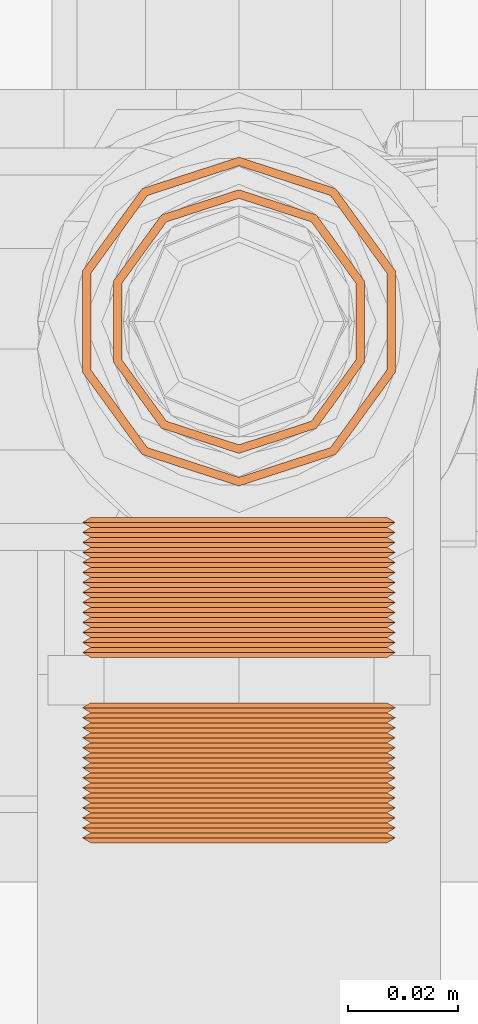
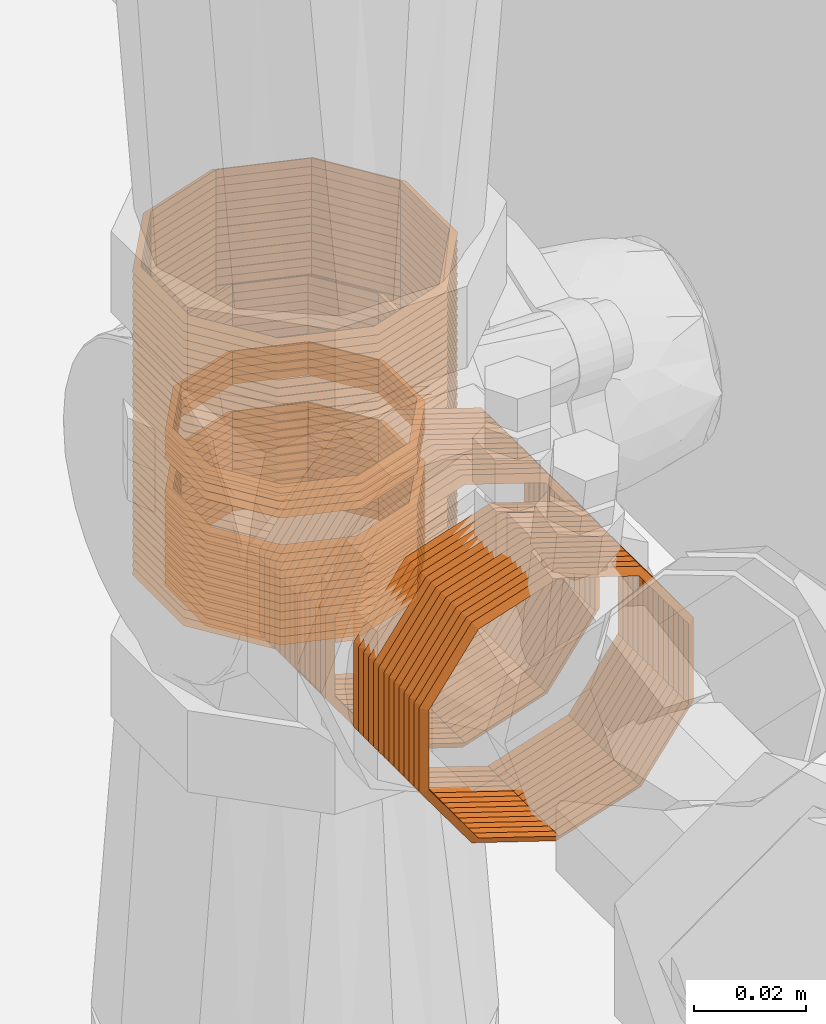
# One storey, part 42 of 43: 108 proxies.
"""IFC2X3 building model written with IfcOpenShell, lengths in millimetres."""

from ifc_helpers import new_model, entity, si_unit, converted_unit, derived_unit, direction, frame, origin, place, context, subcontext, project, spatial, faceted_brep, source, transform, mapped, material, type_object, type_shapes, element, save


model = new_model("IFC2X3")

# Units and contexts
model_context = context("Model", 3, precision=0.01, world=origin(), true_north=direction((6.123031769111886e-17, 1.0)))
body_context = subcontext(model_context, "Body", "Model", "MODEL_VIEW")
ifc_project = project(units=[si_unit("LENGTHUNIT", "METRE", prefix="MILLI"), si_unit("AREAUNIT", "SQUARE_METRE"), si_unit("VOLUMEUNIT", "CUBIC_METRE"), converted_unit("PLANEANGLEUNIT", "DEGREE", entity("IfcRatioMeasure", 0.017453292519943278), si_unit("PLANEANGLEUNIT", "RADIAN"), dimensions=[0, 0, 0, 0, 0, 0, 0]), si_unit("MASSUNIT", "GRAM", prefix="KILO"), derived_unit("MASSDENSITYUNIT", [(si_unit("MASSUNIT", "GRAM", prefix="KILO"), 1), (si_unit("LENGTHUNIT", "METRE"), -3)]), derived_unit("MOMENTOFINERTIAUNIT", [(si_unit("LENGTHUNIT", "METRE"), 4)]), si_unit("TIMEUNIT", "SECOND"), si_unit("FREQUENCYUNIT", "HERTZ"), si_unit("THERMODYNAMICTEMPERATUREUNIT", "DEGREE_CELSIUS"), derived_unit("THERMALTRANSMITTANCEUNIT", [(si_unit("MASSUNIT", "GRAM", prefix="KILO"), 1), (si_unit("THERMODYNAMICTEMPERATUREUNIT", "KELVIN"), -1), (si_unit("TIMEUNIT", "SECOND"), -3)]), derived_unit("VOLUMETRICFLOWRATEUNIT", [(si_unit("LENGTHUNIT", "METRE"), 3), (si_unit("TIMEUNIT", "SECOND"), -1)]), derived_unit("MASSFLOWRATEUNIT", [(si_unit("MASSUNIT", "GRAM", prefix="KILO"), 1), (si_unit("TIMEUNIT", "SECOND"), -1)]), derived_unit("ROTATIONALFREQUENCYUNIT", [(si_unit("TIMEUNIT", "SECOND"), -1)]), si_unit("ELECTRICCURRENTUNIT", "AMPERE"), si_unit("ELECTRICVOLTAGEUNIT", "VOLT"), si_unit("POWERUNIT", "WATT"), si_unit("FORCEUNIT", "NEWTON", prefix="KILO"), si_unit("ILLUMINANCEUNIT", "LUX"), si_unit("LUMINOUSFLUXUNIT", "LUMEN"), si_unit("LUMINOUSINTENSITYUNIT", "CANDELA"), derived_unit("USERDEFINED", [(si_unit("MASSUNIT", "GRAM", prefix="KILO"), -1), (si_unit("LENGTHUNIT", "METRE"), -2), (si_unit("TIMEUNIT", "SECOND"), 3), (si_unit("LUMINOUSFLUXUNIT", "LUMEN"), 1)]), derived_unit("SOUNDPOWERUNIT", [(si_unit("MASSUNIT", "GRAM", prefix="KILO"), 1), (si_unit("LENGTHUNIT", "METRE"), 2), (si_unit("TIMEUNIT", "SECOND"), -3)]), derived_unit("SOUNDPRESSUREUNIT", [(si_unit("MASSUNIT", "GRAM", prefix="KILO"), 1), (si_unit("LENGTHUNIT", "METRE"), -1), (si_unit("TIMEUNIT", "SECOND"), -2)]), derived_unit("LINEARVELOCITYUNIT", [(si_unit("LENGTHUNIT", "METRE"), 1), (si_unit("TIMEUNIT", "SECOND"), -1)]), si_unit("PRESSUREUNIT", "PASCAL"), derived_unit("USERDEFINED", [(si_unit("LENGTHUNIT", "METRE"), -2), (si_unit("MASSUNIT", "GRAM", prefix="KILO"), 1), (si_unit("TIMEUNIT", "SECOND"), -2)]), derived_unit("LINEARFORCEUNIT", [(si_unit("MASSUNIT", "GRAM", prefix="KILO"), 1), (si_unit("LENGTHUNIT", "METRE"), 1), (si_unit("TIMEUNIT", "SECOND"), -2), (si_unit("LENGTHUNIT", "METRE"), -1)]), derived_unit("PLANARFORCEUNIT", [(si_unit("MASSUNIT", "GRAM", prefix="KILO"), 1), (si_unit("LENGTHUNIT", "METRE"), 1), (si_unit("TIMEUNIT", "SECOND"), -2), (si_unit("LENGTHUNIT", "METRE"), -2)])], contexts=[model_context])

# Site, building, storey
site_placement = place(None, origin())
site = spatial("IfcSite", under=ifc_project, at=site_placement, Name="Default", CompositionType="ELEMENT")
building_placement = place(site_placement, origin())
building = spatial("IfcBuilding", under=site, at=building_placement, CompositionType="ELEMENT")
storey_placement = place(building_placement, frame((0.0, 0.0, 270.0)))
storey = spatial("IfcBuildingStorey", under=building, at=storey_placement, Name="Niveau 0", CompositionType="ELEMENT", Elevation=270.0)

# Proxies
ifc_material = material(Name="Copper Conex")
building_element_proxy_type_1 = type_object("IfcBuildingElementProxyType", Name="Male:Male", PredefinedType="NOTDEFINED", material=ifc_material)
shared_shape_1 = source(origin(), body_context, "Body", "Brep", [
    faceted_brep([(0.907000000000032, 8.933272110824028, 19.427933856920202), (0.907000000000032, 13.125556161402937, 18.065778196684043), (0.0, 14.048949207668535, 19.336719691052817), (0.0, 7.024474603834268, 21.619109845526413), (0.0, 0.0, 23.901500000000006), (0.907000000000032, 0.0, 22.33052991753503), (0.907000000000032, 4.740988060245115, 20.790089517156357), (0.907000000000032, 6.562778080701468, 20.198154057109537), (0.907000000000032, 6.562778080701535, -20.198154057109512), (0.907000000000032, 0.0, -22.33052991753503), (0.0, 0.0, -23.901500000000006), (0.0, 5.07452024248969, -22.252688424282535), (0.0, 9.561734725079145, -20.794704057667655), (0.0, 14.048949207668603, -19.33671969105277), (0.907000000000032, 13.125556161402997, -18.065778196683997), (0.907000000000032, 21.23759599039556, 6.900513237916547), (0.0, 22.731677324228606, 7.385969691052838), (0.0, 18.39031326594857, 13.361344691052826), (0.907000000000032, 17.181576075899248, 12.483145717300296), (0.0, 22.73167732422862, 0.0), (0.907000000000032, 21.237595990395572, 0.0), (0.907000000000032, 21.237595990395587, -6.900513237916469), (0.0, 22.731677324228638, -7.385969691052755), (0.0, 18.39031326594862, -13.361344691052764), (0.907000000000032, 17.181576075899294, -12.483145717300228), (0.907000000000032, -8.933272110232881, -19.427933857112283), (0.907000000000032, -13.125556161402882, -18.065778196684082), (0.0, -14.048949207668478, -19.33671969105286), (0.0, -7.0244746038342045, -21.619109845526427), (0.907000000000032, -4.740988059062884, -20.79008951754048), (0.907000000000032, -6.5627780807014, -20.19815405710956), (0.907000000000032, -6.562778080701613, 20.198154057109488), (0.0, -5.0745202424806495, 22.252688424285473), (0.0, -9.561734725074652, 20.7947040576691), (0.0, -14.048949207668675, 19.33671969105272), (0.907000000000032, -13.125556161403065, 18.06577819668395), (0.907000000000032, -21.23759599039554, -6.900513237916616), (0.0, -22.731677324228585, -7.385969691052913), (0.0, -18.39031326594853, -13.361344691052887), (0.907000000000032, -17.18157607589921, -12.48314571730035), (0.0, -22.73167732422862, 0.0), (0.907000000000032, -21.237595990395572, 0.0), (0.907000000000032, -21.237595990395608, 6.9005132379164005), (0.0, -22.73167732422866, 7.385969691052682), (0.0, -18.39031326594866, 13.36134469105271), (0.907000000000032, -17.181576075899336, 12.483145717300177), (-0.907000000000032, 0.0, -22.33052991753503), (-0.907000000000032, 4.82365047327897, -20.76323087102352), (-0.907000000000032, 6.562778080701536, -20.198154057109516), (-0.907000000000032, 8.97460331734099, -19.41450453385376), (-0.907000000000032, 13.125556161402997, -18.065778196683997), (-0.907000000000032, 8.933272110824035, 19.42793385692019), (-0.907000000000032, 6.562778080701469, 20.198154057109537), (-0.907000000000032, 4.740988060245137, 20.790089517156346), (-0.907000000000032, 0.0, 22.33052991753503), (-0.907000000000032, 13.125556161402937, 18.065778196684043), (-0.907000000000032, 21.23759599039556, 6.900513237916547), (-0.907000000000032, 17.181576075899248, 12.483145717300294), (-0.907000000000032, 21.237595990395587, -6.900513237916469), (-0.907000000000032, 21.237595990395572, 0.0), (-0.907000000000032, 17.181576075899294, -12.483145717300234), (-0.907000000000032, -4.823650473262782, 20.763230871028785), (-0.907000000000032, -6.562778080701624, 20.198154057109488), (-0.907000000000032, -8.974603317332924, 19.414504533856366), (-0.907000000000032, -13.125556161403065, 18.06577819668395), (-0.907000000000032, -8.933272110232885, -19.42793385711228), (-0.907000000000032, -6.5627780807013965, -20.198154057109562), (-0.907000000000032, -4.740988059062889, -20.79008951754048), (-0.907000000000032, -13.125556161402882, -18.065778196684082), (-0.907000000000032, -21.23759599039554, -6.900513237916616), (-0.907000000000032, -17.181576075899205, -12.483145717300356), (-0.907000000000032, -21.237595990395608, 6.9005132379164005), (-0.907000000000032, -21.237595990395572, 0.0), (-0.907000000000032, -17.181576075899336, 12.483145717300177)], [[[0, 1, 2, 3, 4, 5, 6, 7]], [[8, 9, 10, 11, 12, 13, 14]], [[15, 16, 17, 2, 1, 18]], [[19, 16, 15, 20, 21, 22]], [[14, 13, 23, 22, 21, 24]], [[25, 26, 27, 28, 10, 9, 29, 30]], [[31, 5, 4, 32, 33, 34, 35]], [[36, 37, 38, 27, 26, 39]], [[40, 37, 36, 41, 42, 43]], [[35, 34, 44, 43, 42, 45]], [[12, 11, 10, 46, 47, 48, 49, 50, 13]], [[51, 52, 53, 54, 4, 3, 2, 55]], [[2, 17, 16, 56, 57, 55]], [[58, 59, 56, 16, 19, 22]], [[22, 23, 13, 50, 60, 58]], [[33, 32, 4, 54, 61, 62, 63, 64, 34]], [[65, 66, 67, 46, 10, 28, 27, 68]], [[27, 38, 37, 69, 70, 68]], [[71, 72, 69, 37, 40, 43]], [[43, 44, 34, 64, 73, 71]], [[18, 1, 55, 57, 56, 15]], [[7, 6, 5, 54, 53, 52, 51, 55, 1, 0]], [[47, 46, 9, 8, 14, 50, 49, 48]], [[59, 58, 21, 20, 15, 56]], [[14, 24, 21, 58, 60, 50]], [[26, 25, 30, 29, 9, 46, 67, 66, 65, 68]], [[69, 36, 39, 26, 68, 70]], [[61, 54, 5, 31, 35, 64, 63, 62]], [[72, 71, 42, 41, 36, 69]], [[35, 45, 42, 71, 73, 64]]]),
])
type_shapes(building_element_proxy_type_1, [shared_shape_1])
for number, where, z_axis, x_axis, name in (
    (1, (-1682.0, -9305.0, 1842.6592340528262), (0.0, 1.0, 0.0), (0.0, 0.0, 1.0), "Male:Male"),
    (2, (-1682.0, -9305.0, 1826.3332340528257), (0.0, 1.0, 0.0), (0.0, 0.0, 1.0), "Male:Male"),
    (3, (-1682.0, -9305.0, 1824.5192340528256), (0.0, 1.0, 0.0), (0.0, 0.0, 1.0), "Male:Male"),
    (4, (-1682.0, -9305.0, 1822.7052340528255), (0.0, 1.0, 0.0), (0.0, 0.0, 1.0), "Male:Male"),
    (5, (-1682.0, -9305.0, 1833.5892340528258), (0.0, 1.0, 0.0), (0.0, 0.0, 1.0), "Male:Male"),
    (6, (-1682.0, -9305.0, 1831.7752340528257), (0.0, 1.0, 0.0), (0.0, 0.0, 1.0), "Male:Male"),
    (7, (-1682.0, -9305.0, 1829.9612340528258), (0.0, 1.0, 0.0), (0.0, 0.0, 1.0), "Male:Male"),
    (8, (-1682.0, -9305.0, 1828.1472340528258), (0.0, 1.0, 0.0), (0.0, 0.0, 1.0), "Male:Male"),
    (9, (-1682.0, -9305.0, 1850.4372340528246), (0.0, 1.0, 0.0), (0.0, 0.0, -1.0), "Male:Male"),
    (10, (-1682.0, -9305.0, 1866.763234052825), (0.0, 1.0, 0.0), (0.0, 0.0, -1.0), "Male:Male"),
    (11, (-1682.0, -9305.0, 1868.5772340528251), (0.0, 1.0, 0.0), (0.0, 0.0, -1.0), "Male:Male"),
    (12, (-1682.0, -9305.0, 1870.3912340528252), (0.0, 1.0, 0.0), (0.0, 0.0, -1.0), "Male:Male"),
    (13, (-1682.0, -9305.0, 1859.507234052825), (0.0, 1.0, 0.0), (0.0, 0.0, -1.0), "Male:Male"),
    (14, (-1682.0, -9305.0, 1861.3212340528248), (0.0, 1.0, 0.0), (0.0, 0.0, -1.0), "Male:Male"),
    (15, (-1682.0, -9305.0, 1863.135234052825), (0.0, 1.0, 0.0), (0.0, 0.0, -1.0), "Male:Male"),
    (16, (-1682.0, -9305.0, 1864.949234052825), (0.0, 1.0, 0.0), (0.0, 0.0, -1.0), "Male:Male"),
    (17, (-1682.0, -9305.0, 1835.4032340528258), (0.0, 1.0, 0.0), (0.0, 0.0, 1.0), "Male:Male"),
    (18, (-1682.0, -9305.0, 1857.693234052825), (0.0, 1.0, 0.0), (0.0, 0.0, -1.0), "Male:Male"),
    (19, (-1682.0, -9305.0, 1840.845234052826), (0.0, 1.0, 0.0), (0.0, 0.0, 1.0), "Male:Male"),
    (20, (-1682.0, -9305.0, 1839.031234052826), (0.0, 1.0, 0.0), (0.0, 0.0, 1.0), "Male:Male"),
    (21, (-1682.0, -9305.0, 1837.217234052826), (0.0, 1.0, 0.0), (0.0, 0.0, 1.0), "Male:Male"),
    (22, (-1682.0, -9305.0, 1852.2512340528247), (0.0, 1.0, 0.0), (0.0, 0.0, -1.0), "Male:Male"),
    (23, (-1682.0, -9305.0, 1854.0652340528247), (0.0, 1.0, 0.0), (0.0, 0.0, -1.0), "Male:Male"),
    (24, (-1682.0, -9305.0, 1855.8792340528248), (0.0, 1.0, 0.0), (0.0, 0.0, -1.0), "Male:Male"),
):
    element("IfcBuildingElementProxy", number, at=place(storey_placement, frame(where, z_axis=z_axis, x_axis=x_axis)), inside=storey, type_object=building_element_proxy_type_1, material=ifc_material, Name=name, ObjectType="Male:Male", context=body_context, shape_type="MappedRepresentation", body=[
        mapped(shared_shape_1, transform((0.0, 0.0, 0.0), scale=1.0)),
    ])
building_element_proxy_type_2 = type_object("IfcBuildingElementProxyType", Name="Male:Male", PredefinedType="NOTDEFINED", material=ifc_material)
shared_shape_2 = source(origin(), body_context, "Body", "Brep", [
    faceted_brep([(0.907000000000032, 16.596721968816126, 22.84342805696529), (0.0, 17.52011501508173, 24.114369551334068), (0.0, 8.760057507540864, 26.96068477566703), (0.0, 0.0, 29.807), (0.907000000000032, 0.0, 28.236029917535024), (0.907000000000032, 5.350198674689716, 26.497644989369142), (0.907000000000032, 8.298360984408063, 25.539728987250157), (0.907000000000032, 10.700397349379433, 24.759260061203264), (0.907000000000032, 26.85406024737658, 8.725413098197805), (0.0, 28.348141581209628, 9.210869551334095), (0.0, 22.93412829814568, 16.662619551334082), (0.907000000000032, 21.72539110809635, 15.784420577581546), (0.0, 5.647868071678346, -27.971896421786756), (0.0, 11.295736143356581, -26.13679284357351), (0.0, 17.52011501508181, -24.114369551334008), (0.907000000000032, 16.596721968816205, -22.843428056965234), (0.907000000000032, 8.298360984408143, -25.539728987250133), (0.907000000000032, 0.0, -28.236029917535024), (0.0, 0.0, -29.807), (0.0, 28.348141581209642, 0.0), (0.907000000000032, 26.854060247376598, 0.0), (0.907000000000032, 26.854060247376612, -8.725413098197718), (0.0, 28.348141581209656, -9.210869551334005), (0.0, 22.934128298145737, -16.662619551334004), (0.907000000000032, 21.72539110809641, -15.784420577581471), (0.907000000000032, -16.59672196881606, -22.84342805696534), (0.0, -17.520115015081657, -24.114369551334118), (0.0, -8.76005750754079, -26.960684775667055), (0.907000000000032, -5.3501986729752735, -26.497644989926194), (0.907000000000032, -8.298360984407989, -25.539728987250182), (0.907000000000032, -10.700397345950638, -24.75926006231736), (0.907000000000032, -26.854060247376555, -8.725413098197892), (0.0, -28.3481415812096, -9.21086955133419), (0.0, -22.934128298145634, -16.662619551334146), (0.907000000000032, -21.725391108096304, -15.784420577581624), (0.0, -5.647868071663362, 27.971896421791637), (0.0, -11.295736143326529, 26.136792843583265), (0.0, -17.5201150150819, 24.114369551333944), (0.907000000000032, -16.59672196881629, 22.843428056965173), (0.907000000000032, -8.298360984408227, 25.5397289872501), (0.0, -28.348141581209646, 0.0), (0.907000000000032, -26.854060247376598, 0.0), (0.907000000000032, -26.85406024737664, 8.725413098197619), (0.0, -28.348141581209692, 9.210869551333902), (0.0, -22.934128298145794, 16.662619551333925), (0.907000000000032, -21.72539110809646, 15.784420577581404), (-0.907000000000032, 16.596721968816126, 22.84342805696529), (-0.907000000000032, 10.700397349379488, 24.75926006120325), (-0.907000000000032, 8.298360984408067, 25.539728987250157), (-0.907000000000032, 5.350198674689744, 26.497644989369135), (-0.907000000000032, 0.0, 28.236029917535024), (-0.907000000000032, 0.0, -28.236029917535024), (-0.907000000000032, 5.424105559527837, -26.47363118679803), (-0.907000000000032, 8.29836098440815, -25.539728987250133), (-0.907000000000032, 10.848211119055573, -24.711232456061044), (-0.907000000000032, 16.596721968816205, -22.843428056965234), (-0.907000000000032, 26.85406024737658, 8.725413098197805), (-0.907000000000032, 21.725391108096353, 15.784420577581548), (-0.907000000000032, 26.854060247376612, -8.725413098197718), (-0.907000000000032, 26.854060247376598, 0.0), (-0.907000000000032, 21.72539110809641, -15.784420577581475), (-0.907000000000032, -16.59672196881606, -22.84342805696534), (-0.907000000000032, -10.700397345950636, -24.759260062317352), (-0.907000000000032, -8.298360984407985, -25.539728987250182), (-0.907000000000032, -5.350198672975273, -26.49764498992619), (-0.907000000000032, -5.424105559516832, 26.47363118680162), (-0.907000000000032, -8.298360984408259, 25.539728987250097), (-0.907000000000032, -10.848211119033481, 24.71123245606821), (-0.907000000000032, -16.59672196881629, 22.843428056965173), (-0.907000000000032, -26.854060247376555, -8.725413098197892), (-0.907000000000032, -21.725391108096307, -15.784420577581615), (-0.907000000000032, -26.85406024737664, 8.725413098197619), (-0.907000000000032, -26.854060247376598, 0.0), (-0.907000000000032, -21.725391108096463, 15.784420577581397)], [[[0, 1, 2, 3, 4, 5, 6, 7]], [[8, 9, 10, 1, 0, 11]], [[12, 13, 14, 15, 16, 17, 18]], [[19, 9, 8, 20, 21, 22]], [[15, 14, 23, 22, 21, 24]], [[25, 26, 27, 18, 17, 28, 29, 30]], [[31, 32, 33, 26, 25, 34]], [[35, 36, 37, 38, 39, 4, 3]], [[40, 32, 31, 41, 42, 43]], [[38, 37, 44, 43, 42, 45]], [[1, 46, 47, 48, 49, 50, 3, 2]], [[12, 18, 51, 52, 53, 54, 55, 14, 13]], [[1, 10, 9, 56, 57, 46]], [[58, 59, 56, 9, 19, 22]], [[22, 23, 14, 55, 60, 58]], [[26, 61, 62, 63, 64, 51, 18, 27]], [[35, 3, 50, 65, 66, 67, 68, 37, 36]], [[26, 33, 32, 69, 70, 61]], [[71, 72, 69, 32, 40, 43]], [[43, 44, 37, 68, 73, 71]], [[11, 0, 46, 57, 56, 8]], [[6, 5, 4, 50, 49, 48, 47, 46, 0, 7]], [[16, 15, 55, 54, 53, 52, 51, 17]], [[59, 58, 21, 20, 8, 56]], [[15, 24, 21, 58, 60, 55]], [[25, 30, 29, 28, 17, 51, 64, 63, 62, 61]], [[69, 31, 34, 25, 61, 70]], [[39, 38, 68, 67, 66, 65, 50, 4]], [[72, 71, 42, 41, 31, 69]], [[38, 45, 42, 71, 73, 68]]]),
])
type_shapes(building_element_proxy_type_2, [shared_shape_2])
for number, where, z_axis, x_axis, name in (
    (25, (-1682.0, -9305.0, 1849.3872340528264), (0.0, -1.0, 0.0), (0.0, 0.0, 1.0), "Male:Male"),
    (26, (-1682.0, -9305.0, 1829.4332340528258), (0.0, -1.0, 0.0), (0.0, 0.0, 1.0), "Male:Male"),
    (27, (-1682.0, -9305.0, 1827.6192340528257), (0.0, -1.0, 0.0), (0.0, 0.0, 1.0), "Male:Male"),
    (28, (-1682.0, -9305.0, 1825.8052340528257), (0.0, -1.0, 0.0), (0.0, 0.0, 1.0), "Male:Male"),
    (29, (-1682.0, -9305.0, 1836.689234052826), (0.0, -1.0, 0.0), (0.0, 0.0, 1.0), "Male:Male"),
    (30, (-1682.0, -9305.0, 1834.8752340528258), (0.0, -1.0, 0.0), (0.0, 0.0, 1.0), "Male:Male"),
    (31, (-1682.0, -9305.0, 1833.0612340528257), (0.0, -1.0, 0.0), (0.0, 0.0, 1.0), "Male:Male"),
    (32, (-1682.0, -9305.0, 1831.2472340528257), (0.0, -1.0, 0.0), (0.0, 0.0, 1.0), "Male:Male"),
    (33, (-1682.0, -9305.0, 1859.4092340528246), (0.0, -1.0, 0.0), (0.0, 0.0, -1.0), "Male:Male"),
    (34, (-1682.0, -9305.0, 1879.3632340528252), (0.0, -1.0, 0.0), (0.0, 0.0, -1.0), "Male:Male"),
    (35, (-1682.0, -9305.0, 1881.1772340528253), (0.0, -1.0, 0.0), (0.0, 0.0, -1.0), "Male:Male"),
    (36, (-1682.0, -9305.0, 1882.9912340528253), (0.0, -1.0, 0.0), (0.0, 0.0, -1.0), "Male:Male"),
    (37, (-1682.0, -9305.0, 1872.1072340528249), (0.0, -1.0, 0.0), (0.0, 0.0, -1.0), "Male:Male"),
    (38, (-1682.0, -9305.0, 1873.921234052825), (0.0, -1.0, 0.0), (0.0, 0.0, -1.0), "Male:Male"),
    (39, (-1682.0, -9305.0, 1875.735234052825), (0.0, -1.0, 0.0), (0.0, 0.0, -1.0), "Male:Male"),
    (40, (-1682.0, -9305.0, 1877.549234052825), (0.0, -1.0, 0.0), (0.0, 0.0, -1.0), "Male:Male"),
    (41, (-1682.0, -9305.0, 1838.503234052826), (0.0, -1.0, 0.0), (0.0, 0.0, 1.0), "Male:Male"),
    (42, (-1682.0, -9305.0, 1870.2932340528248), (0.0, -1.0, 0.0), (0.0, 0.0, -1.0), "Male:Male"),
    (43, (-1682.0, -9305.0, 1847.5732340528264), (0.0, -1.0, 0.0), (0.0, 0.0, 1.0), "Male:Male"),
    (44, (-1682.0, -9305.0, 1845.7592340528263), (0.0, -1.0, 0.0), (0.0, 0.0, 1.0), "Male:Male"),
    (45, (-1682.0, -9305.0, 1843.9452340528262), (0.0, -1.0, 0.0), (0.0, 0.0, 1.0), "Male:Male"),
    (46, (-1682.0, -9305.0, 1842.1312340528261), (0.0, -1.0, 0.0), (0.0, 0.0, 1.0), "Male:Male"),
    (47, (-1682.0, -9305.0, 1840.317234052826), (0.0, -1.0, 0.0), (0.0, 0.0, 1.0), "Male:Male"),
    (48, (-1682.0, -9305.0, 1861.2232340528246), (0.0, -1.0, 0.0), (0.0, 0.0, -1.0), "Male:Male"),
    (49, (-1682.0, -9305.0, 1863.0372340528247), (0.0, -1.0, 0.0), (0.0, 0.0, -1.0), "Male:Male"),
    (50, (-1682.0, -9305.0, 1864.8512340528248), (0.0, -1.0, 0.0), (0.0, 0.0, -1.0), "Male:Male"),
    (51, (-1682.0, -9305.0, 1866.6652340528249), (0.0, -1.0, 0.0), (0.0, 0.0, -1.0), "Male:Male"),
    (52, (-1682.0, -9305.0, 1868.479234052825), (0.0, -1.0, 0.0), (0.0, 0.0, -1.0), "Male:Male"),
    (53, (-1682.0, -9305.0, 1858.3872340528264), (0.0, 1.0, 0.0), (0.0, 0.0, 1.0), "Male:Male"),
    (54, (-1682.0, -9305.0, 1838.4332340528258), (0.0, 1.0, 0.0), (0.0, 0.0, 1.0), "Male:Male"),
    (55, (-1682.0, -9305.0, 1836.6192340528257), (0.0, 1.0, 0.0), (0.0, 0.0, 1.0), "Male:Male"),
    (56, (-1682.0, -9305.0, 1834.8052340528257), (0.0, 1.0, 0.0), (0.0, 0.0, 1.0), "Male:Male"),
    (57, (-1682.0, -9305.0, 1845.6892340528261), (0.0, 1.0, 0.0), (0.0, 0.0, 1.0), "Male:Male"),
    (58, (-1682.0, -9305.0, 1843.875234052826), (0.0, 1.0, 0.0), (0.0, 0.0, 1.0), "Male:Male"),
    (59, (-1682.0, -9305.0, 1842.061234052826), (0.0, 1.0, 0.0), (0.0, 0.0, 1.0), "Male:Male"),
    (60, (-1682.0, -9305.0, 1840.247234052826), (0.0, 1.0, 0.0), (0.0, 0.0, 1.0), "Male:Male"),
    (61, (-1682.0, -9305.0, 1868.4092340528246), (0.0, 1.0, 0.0), (0.0, 0.0, -1.0), "Male:Male"),
    (62, (-1682.0, -9305.0, 1888.3632340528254), (0.0, 1.0, 0.0), (0.0, 0.0, -1.0), "Male:Male"),
    (63, (-1682.0, -9305.0, 1890.1772340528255), (0.0, 1.0, 0.0), (0.0, 0.0, -1.0), "Male:Male"),
    (64, (-1682.0, -9305.0, 1891.9912340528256), (0.0, 1.0, 0.0), (0.0, 0.0, -1.0), "Male:Male"),
    (65, (-1682.0, -9305.0, 1881.107234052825), (0.0, 1.0, 0.0), (0.0, 0.0, -1.0), "Male:Male"),
    (66, (-1682.0, -9305.0, 1882.9212340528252), (0.0, 1.0, 0.0), (0.0, 0.0, -1.0), "Male:Male"),
    (67, (-1682.0, -9305.0, 1884.7352340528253), (0.0, 1.0, 0.0), (0.0, 0.0, -1.0), "Male:Male"),
    (68, (-1682.0, -9305.0, 1886.5492340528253), (0.0, 1.0, 0.0), (0.0, 0.0, -1.0), "Male:Male"),
    (69, (-1682.0, -9305.0, 1847.5032340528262), (0.0, 1.0, 0.0), (0.0, 0.0, 1.0), "Male:Male"),
    (70, (-1682.0, -9305.0, 1879.293234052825), (0.0, 1.0, 0.0), (0.0, 0.0, -1.0), "Male:Male"),
    (71, (-1682.0, -9305.0, 1856.5732340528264), (0.0, 1.0, 0.0), (0.0, 0.0, 1.0), "Male:Male"),
    (72, (-1682.0, -9305.0, 1854.7592340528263), (0.0, 1.0, 0.0), (0.0, 0.0, 1.0), "Male:Male"),
    (73, (-1682.0, -9305.0, 1852.9452340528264), (0.0, 1.0, 0.0), (0.0, 0.0, 1.0), "Male:Male"),
    (74, (-1682.0, -9305.0, 1851.1312340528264), (0.0, 1.0, 0.0), (0.0, 0.0, 1.0), "Male:Male"),
    (75, (-1682.0, -9305.0, 1849.3172340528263), (0.0, 1.0, 0.0), (0.0, 0.0, 1.0), "Male:Male"),
    (76, (-1682.0, -9305.0, 1870.2232340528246), (0.0, 1.0, 0.0), (0.0, 0.0, -1.0), "Male:Male"),
    (77, (-1682.0, -9305.0, 1872.0372340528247), (0.0, 1.0, 0.0), (0.0, 0.0, -1.0), "Male:Male"),
    (78, (-1682.0, -9305.0, 1873.8512340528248), (0.0, 1.0, 0.0), (0.0, 0.0, -1.0), "Male:Male"),
    (79, (-1682.0, -9305.0, 1875.6652340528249), (0.0, 1.0, 0.0), (0.0, 0.0, -1.0), "Male:Male"),
    (80, (-1682.0, -9305.0, 1877.479234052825), (0.0, 1.0, 0.0), (0.0, 0.0, -1.0), "Male:Male"),
    (81, (-1682.0, -9375.011000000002, 1849.8262850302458), (0.0, 0.0, 1.0), (0.0, 1.0, 0.0), "Male:Male"),
    (82, (-1682.0, -9394.965000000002, 1849.8262850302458), (0.0, 0.0, 1.0), (0.0, 1.0, 0.0), "Male:Male"),
    (83, (-1682.0, -9396.779000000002, 1849.8262850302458), (0.0, 0.0, 1.0), (0.0, 1.0, 0.0), "Male:Male"),
    (84, (-1682.0, -9398.593000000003, 1849.8262850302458), (0.0, 0.0, 1.0), (0.0, 1.0, 0.0), "Male:Male"),
    (85, (-1682.0, -9387.709000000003, 1849.8262850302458), (0.0, 0.0, 1.0), (0.0, 1.0, 0.0), "Male:Male"),
    (86, (-1682.0, -9389.523000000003, 1849.8262850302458), (0.0, 0.0, 1.0), (0.0, 1.0, 0.0), "Male:Male"),
    (87, (-1682.0, -9391.337000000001, 1849.8262850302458), (0.0, 0.0, 1.0), (0.0, 1.0, 0.0), "Male:Male"),
    (88, (-1682.0, -9393.151000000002, 1849.8262850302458), (0.0, 0.0, 1.0), (0.0, 1.0, 0.0), "Male:Male"),
    (89, (-1682.0, -9364.989000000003, 1849.8262850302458), (0.0, 0.0, 1.0), (0.0, -1.0, 0.0), "Male:Male"),
    (90, (-1682.0, -9345.035000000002, 1849.8262850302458), (0.0, 0.0, 1.0), (0.0, -1.0, 0.0), "Male:Male"),
    (91, (-1682.0, -9343.221000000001, 1849.8262850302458), (0.0, 0.0, 1.0), (0.0, -1.0, 0.0), "Male:Male"),
    (92, (-1682.0, -9341.407000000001, 1849.8262850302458), (0.0, 0.0, 1.0), (0.0, -1.0, 0.0), "Male:Male"),
    (93, (-1682.0, -9352.291000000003, 1849.8262850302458), (0.0, 0.0, 1.0), (0.0, -1.0, 0.0), "Male:Male"),
    (94, (-1682.0, -9350.477000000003, 1849.8262850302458), (0.0, 0.0, 1.0), (0.0, -1.0, 0.0), "Male:Male"),
    (95, (-1682.0, -9348.663000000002, 1849.8262850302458), (0.0, 0.0, 1.0), (0.0, -1.0, 0.0), "Male:Male"),
    (96, (-1682.0, -9346.849000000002, 1849.8262850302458), (0.0, 0.0, 1.0), (0.0, -1.0, 0.0), "Male:Male"),
    (97, (-1682.0, -9385.895000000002, 1849.8262850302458), (0.0, 0.0, 1.0), (0.0, 1.0, 0.0), "Male:Male"),
    (98, (-1682.0, -9354.105000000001, 1849.8262850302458), (0.0, 0.0, 1.0), (0.0, -1.0, 0.0), "Male:Male"),
    (99, (-1682.0, -9376.825, 1849.8262850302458), (0.0, 0.0, 1.0), (0.0, 1.0, 0.0), "Male:Male"),
    (100, (-1682.0, -9378.639000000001, 1849.8262850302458), (0.0, 0.0, 1.0), (0.0, 1.0, 0.0), "Male:Male"),
    (101, (-1682.0, -9380.453000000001, 1849.8262850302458), (0.0, 0.0, 1.0), (0.0, 1.0, 0.0), "Male:Male"),
    (102, (-1682.0, -9382.267000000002, 1849.8262850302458), (0.0, 0.0, 1.0), (0.0, 1.0, 0.0), "Male:Male"),
    (103, (-1682.0, -9384.081000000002, 1849.8262850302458), (0.0, 0.0, 1.0), (0.0, 1.0, 0.0), "Male:Male"),
    (104, (-1682.0, -9363.175000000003, 1849.8262850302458), (0.0, 0.0, 1.0), (0.0, -1.0, 0.0), "Male:Male"),
    (105, (-1682.0, -9361.361000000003, 1849.8262850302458), (0.0, 0.0, 1.0), (0.0, -1.0, 0.0), "Male:Male"),
    (106, (-1682.0, -9359.547000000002, 1849.8262850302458), (0.0, 0.0, 1.0), (0.0, -1.0, 0.0), "Male:Male"),
    (107, (-1682.0, -9357.733000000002, 1849.8262850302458), (0.0, 0.0, 1.0), (0.0, -1.0, 0.0), "Male:Male"),
    (108, (-1682.0, -9355.919000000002, 1849.8262850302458), (0.0, 0.0, 1.0), (0.0, -1.0, 0.0), "Male:Male"),
):
    element("IfcBuildingElementProxy", number, at=place(storey_placement, frame(where, z_axis=z_axis, x_axis=x_axis)), inside=storey, type_object=building_element_proxy_type_2, material=ifc_material, Name=name, ObjectType="Male:Male", context=body_context, shape_type="MappedRepresentation", body=[
        mapped(shared_shape_2, transform((0.0, 0.0, 0.0), scale=1.0)),
    ])

save(model, "model.ifc")
